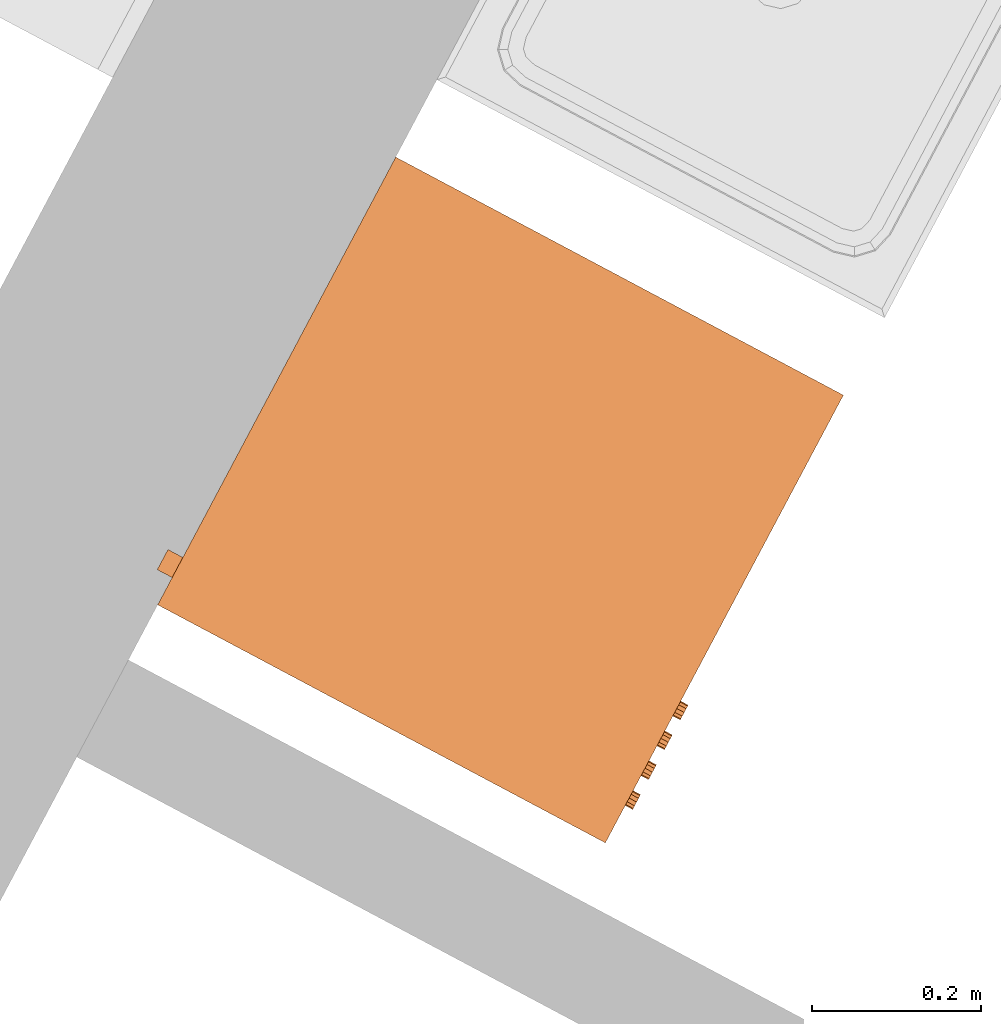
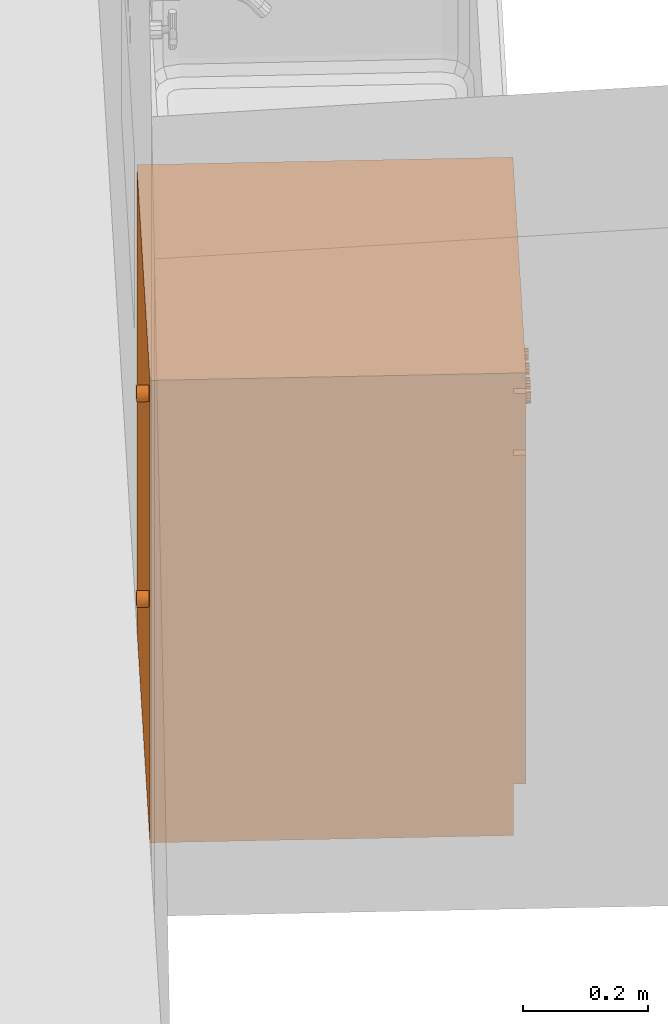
# One storey, part 21 of 27: 1 proxy.
"""IFC2X3 building model written with IfcOpenShell, lengths in metres."""

from ifc_helpers import new_model, entity, si_unit, converted_unit, derived_unit, money_unit, direction, frame, origin_with_axes, place, context, subcontext, project, spatial, open_shell, faceted_brep, surface_model, type_object, element, save


model = new_model("IFC2X3")

# Units and contexts
model_context = context("Model", 3, precision=1e-05, world=origin_with_axes(), true_north=direction((0.0, 1.0)))
body_context = subcontext(model_context, "Body", "Model", "MODEL_VIEW")
ifc_project = project(units=[si_unit("LENGTHUNIT", "METRE"), si_unit("AREAUNIT", "SQUARE_METRE"), si_unit("VOLUMEUNIT", "CUBIC_METRE"), converted_unit("PLANEANGLEUNIT", "DEGREE", entity("IfcPlaneAngleMeasure", 0.0174532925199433), si_unit("PLANEANGLEUNIT", "RADIAN"), dimensions=[0, 0, 0, 0, 0, 0, 0]), money_unit("CHF"), converted_unit("TIMEUNIT", "Year", entity("IfcTimeMeasure", 31557600.0), si_unit("TIMEUNIT", "SECOND"), dimensions=[0, 0, 1, 0, 0, 0, 0]), si_unit("MASSUNIT", "GRAM", prefix="KILO"), si_unit("THERMODYNAMICTEMPERATUREUNIT", "DEGREE_CELSIUS"), si_unit("LUMINOUSINTENSITYUNIT", "LUMEN"), si_unit("ENERGYUNIT", "JOULE", prefix="MEGA"), derived_unit("THERMALCONDUCTANCEUNIT", [(si_unit("POWERUNIT", "WATT"), 1), (si_unit("LENGTHUNIT", "METRE"), -1), (si_unit("THERMODYNAMICTEMPERATUREUNIT", "KELVIN"), -1)]), derived_unit("SPECIFICHEATCAPACITYUNIT", [(si_unit("ENERGYUNIT", "JOULE"), 1), (si_unit("MASSUNIT", "GRAM", prefix="KILO"), -1), (si_unit("THERMODYNAMICTEMPERATUREUNIT", "KELVIN"), -1)]), derived_unit("MASSDENSITYUNIT", [(si_unit("MASSUNIT", "GRAM", prefix="KILO"), 1), (si_unit("VOLUMEUNIT", "CUBIC_METRE"), -1)])], contexts=[model_context])

# Site, building, storey
site_placement = place(None, frame((0.0, 0.0, 0.0), z_axis=(0.0, 0.0, 1.0), x_axis=(-0.4694715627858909, -0.8829475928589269, 0.0)))
site = spatial("IfcSite", under=ifc_project, at=site_placement, Name="Site", CompositionType="ELEMENT")
building_placement = place(site_placement, origin_with_axes())
building = spatial("IfcBuilding", under=site, at=building_placement, Name="Bâtiment", CompositionType="ELEMENT")
storey_placement = place(building_placement, origin_with_axes())
storey = spatial("IfcBuildingStorey", under=building, at=storey_placement, Name="RDC", CompositionType="ELEMENT", Elevation=0.0)

# Proxy
building_element_proxy_type = type_object("IfcBuildingElementProxyType", Name="Lave linge 27", PredefinedType="NOTDEFINED")
proxy_placement = place(storey_placement, frame((137.0556440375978, -828.6945991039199, 0.0), z_axis=(0.0, 0.0, 1.0), x_axis=(-1.0, 0.0, 0.0)))
element("IfcBuildingElementProxy", 1, at=proxy_placement, inside=storey, type_object=building_element_proxy_type, Name="Obj.-483", context=body_context, shape_type="SurfaceModel", body=[
    surface_model("IfcShellBasedSurfaceModel", [(-0.25, 0.0, 0.8265), (-0.253494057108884, 0.0, 0.8269600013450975), (-0.253494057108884, 0.02, 0.8269600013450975), (-0.25, 0.02, 0.8265), (-0.25675, 0.0, 0.82830865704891), (-0.25675, 0.02, 0.8283086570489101), (-0.246505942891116, 0.0, 0.8269600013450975), (-0.246505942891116, 0.02, 0.8269600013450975), (-0.2595459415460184, 0.0, 0.8304540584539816), (-0.2595459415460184, 0.02, 0.8304540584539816), (-0.24325, 0.0, 0.82830865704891), (-0.24325, 0.02, 0.8283086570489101), (-0.2616913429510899, 0.0, 0.8332499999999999), (-0.2616913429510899, 0.02, 0.8332499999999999), (-0.2404540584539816, 0.0, 0.8304540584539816), (-0.2404540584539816, 0.02, 0.8304540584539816), (-0.2630399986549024, 0.0, 0.8365059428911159), (-0.2630399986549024, 0.02, 0.8365059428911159), (-0.2383086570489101, 0.0, 0.8332499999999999), (-0.2383086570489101, 0.02, 0.8332499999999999), (-0.2635, 0.0, 0.84), (-0.2635, 0.02, 0.84), (-0.2369600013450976, 0.0, 0.8365059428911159), (-0.2369600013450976, 0.02, 0.8365059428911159), (-0.2630399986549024, 0.0, 0.843494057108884), (-0.2630399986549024, 0.02, 0.843494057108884), (-0.2365, 0.0, 0.84), (-0.2365, 0.02, 0.84), (-0.2616913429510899, 0.0, 0.84675), (-0.2616913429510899, 0.02, 0.84675), (-0.2369600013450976, 0.0, 0.843494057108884), (-0.2369600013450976, 0.02, 0.843494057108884), (-0.2595459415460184, 0.0, 0.8495459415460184), (-0.2595459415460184, 0.02, 0.8495459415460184), (-0.2383086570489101, 0.0, 0.84675), (-0.2383086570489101, 0.02, 0.84675), (-0.25675, 0.0, 0.8516913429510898), (-0.25675, 0.02, 0.85169134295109), (-0.2404540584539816, 0.0, 0.8495459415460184), (-0.2404540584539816, 0.02, 0.8495459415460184), (-0.2534940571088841, 0.0, 0.8530399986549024), (-0.2534940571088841, 0.02, 0.8530399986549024), (-0.24325, 0.0, 0.85169134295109), (-0.24325, 0.02, 0.85169134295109), (-0.25, 0.0, 0.8534999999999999), (-0.25, 0.02, 0.8534999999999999), (-0.246505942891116, 0.0, 0.8530399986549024), (-0.246505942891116, 0.02, 0.8530399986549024)], [open_shell([[[0, 1, 2, 3]], [[1, 4, 5, 2]], [[6, 0, 3, 7]], [[4, 8, 9, 5]], [[10, 6, 7, 11]], [[8, 12, 13, 9]], [[14, 10, 11, 15]], [[12, 16, 17, 13]], [[18, 14, 15, 19]], [[16, 20, 21, 17]], [[22, 18, 19, 23]], [[20, 24, 25, 21]], [[26, 22, 23, 27]], [[24, 28, 29, 25]], [[30, 26, 27, 31]], [[28, 32, 33, 29]], [[34, 30, 31, 35]], [[32, 36, 37, 33]], [[38, 34, 35, 39]], [[36, 40, 41, 37]], [[42, 38, 39, 43]], [[40, 44, 45, 41]], [[46, 42, 43, 47]], [[44, 46, 47, 45]]])]),
    surface_model("IfcShellBasedSurfaceModel", [(-0.25, 0.0, 0.4265), (-0.253494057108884, 0.0, 0.4269600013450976), (-0.253494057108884, 0.02, 0.4269600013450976), (-0.25, 0.02, 0.4265), (-0.25675, 0.0, 0.4283086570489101), (-0.25675, 0.02, 0.4283086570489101), (-0.246505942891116, 0.0, 0.4269600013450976), (-0.246505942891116, 0.02, 0.4269600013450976), (-0.2595459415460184, 0.0, 0.4304540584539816), (-0.2595459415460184, 0.02, 0.4304540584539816), (-0.24325, 0.0, 0.4283086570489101), (-0.24325, 0.02, 0.4283086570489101), (-0.2616913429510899, 0.0, 0.43325), (-0.2616913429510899, 0.02, 0.43325), (-0.2404540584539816, 0.0, 0.4304540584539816), (-0.2404540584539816, 0.02, 0.4304540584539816), (-0.2630399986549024, 0.0, 0.436505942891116), (-0.2630399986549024, 0.02, 0.436505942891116), (-0.2383086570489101, 0.0, 0.43325), (-0.2383086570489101, 0.02, 0.43325), (-0.2635, 0.0, 0.44), (-0.2635, 0.02, 0.44), (-0.2369600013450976, 0.0, 0.436505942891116), (-0.2369600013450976, 0.02, 0.436505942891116), (-0.2630399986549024, 0.0, 0.443494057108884), (-0.2630399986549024, 0.02, 0.443494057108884), (-0.2365, 0.0, 0.44), (-0.2365, 0.02, 0.44), (-0.2616913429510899, 0.0, 0.44675), (-0.2616913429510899, 0.02, 0.44675), (-0.2369600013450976, 0.0, 0.4434940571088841), (-0.2369600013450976, 0.02, 0.4434940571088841), (-0.2595459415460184, 0.0, 0.4495459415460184), (-0.2595459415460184, 0.02, 0.4495459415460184), (-0.2383086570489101, 0.0, 0.44675), (-0.2383086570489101, 0.02, 0.44675), (-0.25675, 0.0, 0.4516913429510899), (-0.25675, 0.02, 0.4516913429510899), (-0.2404540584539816, 0.0, 0.4495459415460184), (-0.2404540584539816, 0.02, 0.4495459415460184), (-0.2534940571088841, 0.0, 0.4530399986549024), (-0.2534940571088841, 0.02, 0.4530399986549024), (-0.24325, 0.0, 0.4516913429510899), (-0.24325, 0.02, 0.4516913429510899), (-0.25, 0.0, 0.4535), (-0.25, 0.02, 0.4535), (-0.246505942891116, 0.0, 0.4530399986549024), (-0.246505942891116, 0.02, 0.4530399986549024)], [open_shell([[[0, 1, 2, 3]], [[1, 4, 5, 2]], [[6, 0, 3, 7]], [[4, 8, 9, 5]], [[10, 6, 7, 11]], [[8, 12, 13, 9]], [[14, 10, 11, 15]], [[12, 16, 17, 13]], [[18, 14, 15, 19]], [[16, 20, 21, 17]], [[22, 18, 19, 23]], [[20, 24, 25, 21]], [[26, 22, 23, 27]], [[24, 28, 29, 25]], [[30, 26, 27, 31]], [[28, 32, 33, 29]], [[34, 30, 31, 35]], [[32, 36, 37, 33]], [[38, 34, 35, 39]], [[36, 40, 41, 37]], [[42, 38, 39, 43]], [[40, 44, 45, 41]], [[46, 42, 43, 47]], [[44, 46, 47, 45]]])]),
    faceted_brep([(-0.3, -0.58, 0.1), (0.3, -0.58, 0.1), (0.3, -0.6, 0.1), (-0.3, -0.6, 0.1), (-0.3, -0.58, 0.7400000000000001), (0.3, -0.58, 0.7400000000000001), (0.1714285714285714, -0.58, 0.4200000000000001), (0.148461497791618, -0.58, 0.5057142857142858), (0.08571428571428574, -0.58, 0.5684614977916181), (0.0, -0.58, 0.5914285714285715), (-0.08571428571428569, -0.58, 0.5684614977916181), (-0.148461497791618, -0.58, 0.5057142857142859), (-0.1714285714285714, -0.58, 0.4200000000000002), (-0.1484614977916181, -0.58, 0.3342857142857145), (-0.08571428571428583, -0.58, 0.2715385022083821), (0.0, -0.58, 0.2485714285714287), (0.08571428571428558, -0.58, 0.2715385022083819), (0.1484614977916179, -0.58, 0.3342857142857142), (0.3, -0.5999999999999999, 0.7400000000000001), (-0.3, -0.5999999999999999, 0.7400000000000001), (0.1714285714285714, -0.6, 0.4200000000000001), (0.1484614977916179, -0.6, 0.3342857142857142), (0.08571428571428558, -0.6, 0.2715385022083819), (0.0, -0.6, 0.2485714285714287), (-0.08571428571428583, -0.6, 0.2715385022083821), (-0.1484614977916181, -0.6, 0.3342857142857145), (-0.1714285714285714, -0.6, 0.4200000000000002), (-0.148461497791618, -0.6, 0.5057142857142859), (-0.08571428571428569, -0.6, 0.5684614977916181), (0.0, -0.6, 0.5914285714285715), (0.08571428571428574, -0.6, 0.5684614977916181), (0.148461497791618, -0.6, 0.5057142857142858)], [[[0, 1, 2, 3]], [[0, 4, 5, 1], [6, 7, 8, 9, 10, 11, 12, 13, 14, 15, 16, 17]], [[1, 5, 18, 2]], [[3, 2, 18, 19], [20, 21, 22, 23, 24, 25, 26, 27, 28, 29, 30, 31]], [[4, 0, 3, 19]], [[5, 4, 19, 18]], [[7, 6, 20, 31]], [[8, 7, 31, 30]], [[9, 8, 30, 29]], [[10, 9, 29, 28]], [[11, 10, 28, 27]], [[12, 11, 27, 26]], [[13, 12, 26, 25]], [[14, 13, 25, 24]], [[15, 14, 24, 23]], [[16, 15, 23, 22]], [[17, 16, 22, 21]], [[6, 17, 21, 20]]]),
    faceted_brep([(0.1714285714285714, -0.5599999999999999, 0.4200000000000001), (0.148461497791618, -0.5599999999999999, 0.5057142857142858), (0.148461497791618, -0.58, 0.5057142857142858), (0.1714285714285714, -0.58, 0.4200000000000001), (0.1484614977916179, -0.5599999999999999, 0.3342857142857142), (0.08571428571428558, -0.5599999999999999, 0.2715385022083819), (0.0, -0.5599999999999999, 0.2485714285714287), (-0.08571428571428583, -0.5599999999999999, 0.2715385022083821), (-0.1484614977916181, -0.5599999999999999, 0.3342857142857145), (-0.1714285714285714, -0.5599999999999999, 0.4200000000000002), (-0.148461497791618, -0.5599999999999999, 0.5057142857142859), (-0.08571428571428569, -0.5599999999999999, 0.5684614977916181), (0.0, -0.5599999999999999, 0.5914285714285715), (0.08571428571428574, -0.5599999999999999, 0.5684614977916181), (0.1371428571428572, -0.5599999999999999, 0.4200000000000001), (0.1187691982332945, -0.5599999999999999, 0.4885714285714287), (0.06857142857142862, -0.5599999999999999, 0.5387691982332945), (0.0, -0.5599999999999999, 0.5571428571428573), (-0.06857142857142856, -0.5599999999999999, 0.5387691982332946), (-0.1187691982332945, -0.5599999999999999, 0.4885714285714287), (-0.1371428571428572, -0.5599999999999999, 0.4200000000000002), (-0.1187691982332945, -0.5599999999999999, 0.3514285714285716), (-0.06857142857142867, -0.5599999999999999, 0.3012308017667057), (0.0, -0.5599999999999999, 0.2828571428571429), (0.06857142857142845, -0.5599999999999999, 0.3012308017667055), (0.1187691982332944, -0.5599999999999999, 0.3514285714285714), (0.08571428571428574, -0.58, 0.5684614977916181), (0.0, -0.58, 0.5914285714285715), (-0.08571428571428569, -0.58, 0.5684614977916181), (-0.148461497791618, -0.58, 0.5057142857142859), (-0.1714285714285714, -0.58, 0.4200000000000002), (-0.1484614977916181, -0.58, 0.3342857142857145), (-0.08571428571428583, -0.58, 0.2715385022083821), (0.0, -0.58, 0.2485714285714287), (0.08571428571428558, -0.58, 0.2715385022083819), (0.1484614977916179, -0.58, 0.3342857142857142), (0.1371428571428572, -0.58, 0.4200000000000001), (0.1187691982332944, -0.58, 0.3514285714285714), (0.06857142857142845, -0.58, 0.3012308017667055), (0.0, -0.58, 0.2828571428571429), (-0.06857142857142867, -0.58, 0.3012308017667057), (-0.1187691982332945, -0.58, 0.3514285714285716), (-0.1371428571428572, -0.58, 0.4200000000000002), (-0.1187691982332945, -0.58, 0.4885714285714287), (-0.06857142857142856, -0.58, 0.5387691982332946), (0.0, -0.58, 0.5571428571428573), (0.06857142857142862, -0.58, 0.5387691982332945), (0.1187691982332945, -0.58, 0.4885714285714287)], [[[0, 1, 2, 3]], [[0, 4, 5, 6, 7, 8, 9, 10, 11, 12, 13, 1], [14, 15, 16, 17, 18, 19, 20, 21, 22, 23, 24, 25]], [[1, 13, 26, 2]], [[3, 2, 26, 27, 28, 29, 30, 31, 32, 33, 34, 35], [36, 37, 38, 39, 40, 41, 42, 43, 44, 45, 46, 47]], [[4, 0, 3, 35]], [[5, 4, 35, 34]], [[6, 5, 34, 33]], [[7, 6, 33, 32]], [[8, 7, 32, 31]], [[9, 8, 31, 30]], [[10, 9, 30, 29]], [[11, 10, 29, 28]], [[12, 11, 28, 27]], [[13, 12, 27, 26]], [[15, 14, 36, 47]], [[16, 15, 47, 46]], [[17, 16, 46, 45]], [[18, 17, 45, 44]], [[19, 18, 44, 43]], [[20, 19, 43, 42]], [[21, 20, 42, 41]], [[22, 21, 41, 40]], [[23, 22, 40, 39]], [[24, 23, 39, 38]], [[25, 24, 38, 37]], [[14, 25, 37, 36]]]),
    surface_model("IfcShellBasedSurfaceModel", [(-0.06857142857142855, -0.5599999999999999, 0.5387691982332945), (0.0, -0.5599999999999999, 0.5571428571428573), (0.0, -0.46, 0.5228571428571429), (-0.05142857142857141, -0.46, 0.509076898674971), (0.06857142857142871, -0.5599999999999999, 0.5387691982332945), (0.05142857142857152, -0.46, 0.5090768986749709), (0.08907689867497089, -0.46, 0.4714285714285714), (0.1028571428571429, -0.46, 0.42), (0.08907689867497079, -0.46, 0.3685714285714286), (0.05142857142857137, -0.46, 0.3309231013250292), (0.0, -0.46, 0.3171428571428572), (-0.05142857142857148, -0.46, 0.3309231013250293), (-0.08907689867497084, -0.46, 0.3685714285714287), (-0.1028571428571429, -0.46, 0.4200000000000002), (-0.08907689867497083, -0.46, 0.4714285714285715), (-0.1187691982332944, -0.5599999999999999, 0.4885714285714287), (0.1187691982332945, -0.5599999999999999, 0.4885714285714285), (0.1371428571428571, -0.5599999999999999, 0.42), (0.1187691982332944, -0.5599999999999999, 0.3514285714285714), (0.06857142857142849, -0.5599999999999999, 0.3012308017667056), (0.0, -0.5599999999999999, 0.2828571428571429), (-0.06857142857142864, -0.5599999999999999, 0.3012308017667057), (-0.1187691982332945, -0.5599999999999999, 0.3514285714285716), (-0.1371428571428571, -0.5599999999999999, 0.4200000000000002)], [open_shell([[[0, 1, 2, 3]], [[1, 4, 5, 2]], [[2, 5, 6, 7, 8, 9, 10, 11, 12, 13, 14, 3]], [[15, 0, 3, 14]], [[4, 16, 6, 5]], [[16, 17, 7, 6]], [[17, 18, 8, 7]], [[18, 19, 9, 8]], [[19, 20, 10, 9]], [[20, 21, 11, 10]], [[21, 22, 12, 11]], [[22, 23, 13, 12]], [[23, 15, 14, 13]]])]),
    surface_model("IfcShellBasedSurfaceModel", [(-0.3, -0.58, 0.1), (-0.3, -0.58, 0.8700000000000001), (-0.2999999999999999, 0.0, 0.8700000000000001), (-0.2999999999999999, 0.0, 0.09999999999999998)], [open_shell([[[0, 1, 2, 3]]])]),
    surface_model("IfcShellBasedSurfaceModel", [(0.3, -0.58, 0.1), (0.3, -0.58, 0.8700000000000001), (0.3, 0.0, 0.8700000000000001), (0.3, 0.0, 0.09999999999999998)], [open_shell([[[0, 1, 2, 3]]])]),
    surface_model("IfcShellBasedSurfaceModel", [(-0.3, 0.0, 0.1), (-0.3, 0.0, 0.8700000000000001), (0.3, 0.0, 0.8700000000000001), (0.3, 0.0, 0.1)], [open_shell([[[0, 1, 2, 3]]])]),
    faceted_brep([(-0.3, -0.58, 0.0), (0.3, -0.58, 0.0), (0.3, -0.58, 0.1), (-0.3, -0.58, 0.1), (-0.3, 0.0, 0.0), (0.3, 0.0, 0.0), (0.3, 0.0, 0.1), (-0.3, 0.0, 0.1)], [[[0, 1, 2, 3]], [[0, 4, 5, 1]], [[1, 5, 6, 2]], [[3, 2, 6, 7]], [[4, 0, 3, 7]], [[5, 4, 7, 6]]]),
    faceted_brep([(-0.3, -0.58, 0.7500000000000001), (0.3, -0.58, 0.7500000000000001), (0.3, -0.6, 0.7500000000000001), (-0.3, -0.6, 0.7500000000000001), (-0.3, -0.58, 0.8600000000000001), (0.3, -0.58, 0.8600000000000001), (0.3, -0.6, 0.8600000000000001), (-0.3, -0.6, 0.8600000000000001)], [[[0, 1, 2, 3]], [[0, 4, 5, 1]], [[1, 5, 6, 2]], [[3, 2, 6, 7]], [[4, 0, 3, 7]], [[5, 4, 7, 6]]]),
    surface_model("IfcShellBasedSurfaceModel", [(-0.3, -0.58, 0.7400000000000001), (-0.3, -0.58, 0.8700000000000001), (0.3, -0.58, 0.8700000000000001), (0.3, -0.58, 0.7400000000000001)], [open_shell([[[0, 1, 2, 3]]])]),
    faceted_brep([(-0.3, -0.6, 0.8700000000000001), (0.3, -0.6, 0.8700000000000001), (0.3, -0.6, 0.9000000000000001), (-0.3, -0.6, 0.9000000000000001), (-0.3, 0.0, 0.8700000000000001), (0.3, 0.0, 0.8700000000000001), (0.3, 0.0, 0.9000000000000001), (-0.3, 0.0, 0.9000000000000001)], [[[0, 1, 2, 3]], [[0, 4, 5, 1]], [[1, 5, 6, 2]], [[3, 2, 6, 7]], [[4, 0, 3, 7]], [[5, 4, 7, 6]]]),
    faceted_brep([(-0.2313397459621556, -0.6, 0.805), (-0.235, -0.6, 0.8013397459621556), (-0.24, -0.6, 0.8), (-0.245, -0.6, 0.8013397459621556), (-0.2486602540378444, -0.6, 0.805), (-0.25, -0.6, 0.81), (-0.2486602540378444, -0.6, 0.8150000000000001), (-0.245, -0.6, 0.8186602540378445), (-0.24, -0.6, 0.8200000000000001), (-0.235, -0.6, 0.8186602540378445), (-0.2313397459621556, -0.6, 0.8150000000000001), (-0.23, -0.6, 0.81), (-0.2313397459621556, -0.61, 0.805), (-0.235, -0.61, 0.8013397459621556), (-0.24, -0.61, 0.8), (-0.245, -0.61, 0.8013397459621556), (-0.2486602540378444, -0.61, 0.805), (-0.25, -0.61, 0.81), (-0.2486602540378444, -0.61, 0.8150000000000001), (-0.245, -0.61, 0.8186602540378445), (-0.24, -0.61, 0.8200000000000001), (-0.235, -0.61, 0.8186602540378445), (-0.2313397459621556, -0.61, 0.8150000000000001), (-0.23, -0.61, 0.81)], [[[0, 1, 2, 3, 4, 5, 6, 7, 8, 9, 10, 11]], [[1, 0, 12, 13]], [[2, 1, 13, 14]], [[3, 2, 14, 15]], [[4, 3, 15, 16]], [[5, 4, 16, 17]], [[6, 5, 17, 18]], [[7, 6, 18, 19]], [[8, 7, 19, 20]], [[9, 8, 20, 21]], [[10, 9, 21, 22]], [[11, 10, 22, 23]], [[0, 11, 23, 12]], [[12, 23, 22, 21, 20, 19, 18, 17, 16, 15, 14, 13]]]),
    faceted_brep([(-0.1913397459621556, -0.6, 0.805), (-0.195, -0.6, 0.8013397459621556), (-0.2, -0.6, 0.8), (-0.205, -0.6, 0.8013397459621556), (-0.2086602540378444, -0.6, 0.805), (-0.21, -0.6, 0.81), (-0.2086602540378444, -0.6, 0.8150000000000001), (-0.205, -0.6, 0.8186602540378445), (-0.2, -0.6, 0.8200000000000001), (-0.195, -0.6, 0.8186602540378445), (-0.1913397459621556, -0.6, 0.8150000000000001), (-0.19, -0.6, 0.81), (-0.1913397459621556, -0.61, 0.805), (-0.195, -0.61, 0.8013397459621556), (-0.2, -0.61, 0.8), (-0.205, -0.61, 0.8013397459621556), (-0.2086602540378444, -0.61, 0.805), (-0.21, -0.61, 0.81), (-0.2086602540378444, -0.61, 0.8150000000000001), (-0.205, -0.61, 0.8186602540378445), (-0.2, -0.61, 0.8200000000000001), (-0.195, -0.61, 0.8186602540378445), (-0.1913397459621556, -0.61, 0.8150000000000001), (-0.19, -0.61, 0.81)], [[[0, 1, 2, 3, 4, 5, 6, 7, 8, 9, 10, 11]], [[1, 0, 12, 13]], [[2, 1, 13, 14]], [[3, 2, 14, 15]], [[4, 3, 15, 16]], [[5, 4, 16, 17]], [[6, 5, 17, 18]], [[7, 6, 18, 19]], [[8, 7, 19, 20]], [[9, 8, 20, 21]], [[10, 9, 21, 22]], [[11, 10, 22, 23]], [[0, 11, 23, 12]], [[12, 23, 22, 21, 20, 19, 18, 17, 16, 15, 14, 13]]]),
    faceted_brep([(-0.1513397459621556, -0.6, 0.805), (-0.155, -0.6, 0.8013397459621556), (-0.16, -0.6, 0.8), (-0.165, -0.6, 0.8013397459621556), (-0.1686602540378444, -0.6, 0.805), (-0.17, -0.6, 0.81), (-0.1686602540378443, -0.6, 0.8150000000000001), (-0.165, -0.6, 0.8186602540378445), (-0.16, -0.6, 0.8200000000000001), (-0.155, -0.6, 0.8186602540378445), (-0.1513397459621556, -0.6, 0.8150000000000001), (-0.15, -0.6, 0.81), (-0.1513397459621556, -0.61, 0.805), (-0.155, -0.61, 0.8013397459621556), (-0.16, -0.61, 0.8), (-0.165, -0.61, 0.8013397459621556), (-0.1686602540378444, -0.61, 0.805), (-0.17, -0.61, 0.81), (-0.1686602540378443, -0.61, 0.8150000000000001), (-0.165, -0.61, 0.8186602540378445), (-0.16, -0.61, 0.8200000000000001), (-0.155, -0.61, 0.8186602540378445), (-0.1513397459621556, -0.61, 0.8150000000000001), (-0.15, -0.61, 0.81)], [[[0, 1, 2, 3, 4, 5, 6, 7, 8, 9, 10, 11]], [[1, 0, 12, 13]], [[2, 1, 13, 14]], [[3, 2, 14, 15]], [[4, 3, 15, 16]], [[5, 4, 16, 17]], [[6, 5, 17, 18]], [[7, 6, 18, 19]], [[8, 7, 19, 20]], [[9, 8, 20, 21]], [[10, 9, 21, 22]], [[11, 10, 22, 23]], [[0, 11, 23, 12]], [[12, 23, 22, 21, 20, 19, 18, 17, 16, 15, 14, 13]]]),
    faceted_brep([(-0.1113397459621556, -0.6, 0.805), (-0.115, -0.6, 0.8013397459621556), (-0.12, -0.6, 0.8), (-0.125, -0.6, 0.8013397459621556), (-0.1286602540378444, -0.6, 0.805), (-0.13, -0.6, 0.81), (-0.1286602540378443, -0.6, 0.8150000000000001), (-0.125, -0.6, 0.8186602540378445), (-0.12, -0.6, 0.8200000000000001), (-0.115, -0.6, 0.8186602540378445), (-0.1113397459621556, -0.6, 0.8150000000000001), (-0.11, -0.6, 0.81), (-0.1113397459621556, -0.61, 0.805), (-0.115, -0.61, 0.8013397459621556), (-0.12, -0.61, 0.8), (-0.125, -0.61, 0.8013397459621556), (-0.1286602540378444, -0.61, 0.805), (-0.13, -0.61, 0.81), (-0.1286602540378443, -0.61, 0.8150000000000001), (-0.125, -0.61, 0.8186602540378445), (-0.12, -0.61, 0.8200000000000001), (-0.115, -0.61, 0.8186602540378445), (-0.1113397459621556, -0.61, 0.8150000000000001), (-0.11, -0.61, 0.81)], [[[0, 1, 2, 3, 4, 5, 6, 7, 8, 9, 10, 11]], [[1, 0, 12, 13]], [[2, 1, 13, 14]], [[3, 2, 14, 15]], [[4, 3, 15, 16]], [[5, 4, 16, 17]], [[6, 5, 17, 18]], [[7, 6, 18, 19]], [[8, 7, 19, 20]], [[9, 8, 20, 21]], [[10, 9, 21, 22]], [[11, 10, 22, 23]], [[0, 11, 23, 12]], [[12, 23, 22, 21, 20, 19, 18, 17, 16, 15, 14, 13]]]),
])

save(model, "model.ifc")
